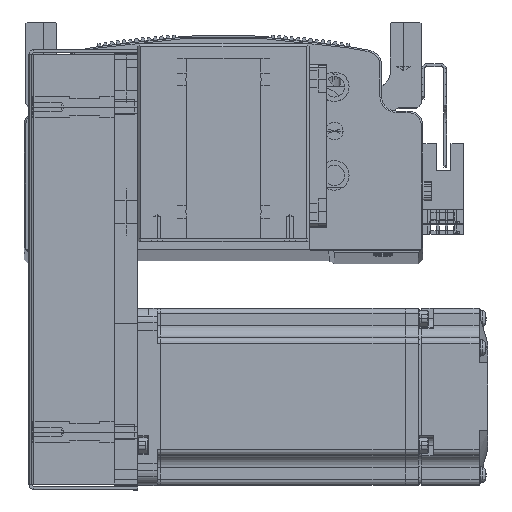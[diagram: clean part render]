
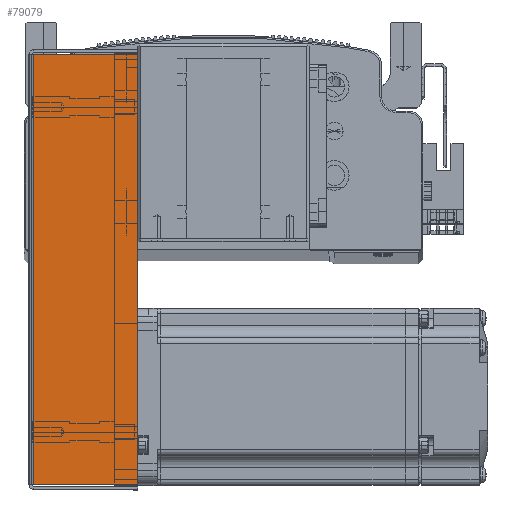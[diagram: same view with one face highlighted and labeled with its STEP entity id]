
A CAD part, top view. The second image highlights one B-rep face of the part: STEP entity #79079.
In plain terms, the highlighted planar face has unit normal (0, 0, 1) as drawn and (0, 0, -1) by its records, which use the part's own axes.
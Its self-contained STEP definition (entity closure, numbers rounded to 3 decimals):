
#15759 = PLANE ( 'NONE',  #30074 ) ;
#15783 = DIRECTION ( 'NONE',  ( 0., 0., 1. ) ) ;
#15842 = DIRECTION ( 'NONE',  ( 0., -1., 0. ) ) ;
#15847 = CARTESIAN_POINT ( 'NONE',  ( 0., 0., -34.5 ) ) ;
#30074 = AXIS2_PLACEMENT_3D ( 'NONE', #15847, #15783, #15842 ) ;
#30798 = EDGE_CURVE ( 'NONE', #32833, #33021, #53072, .T. ) ;
#30831 = EDGE_CURVE ( 'NONE', #32903, #33092, #53157, .T. ) ;
#30856 = EDGE_CURVE ( 'NONE', #33092, #33021, #53205, .T. ) ;
#30871 = EDGE_CURVE ( 'NONE', #32903, #32833, #53195, .T. ) ;
#32833 = VERTEX_POINT ( 'NONE', #40944 ) ;
#32903 = VERTEX_POINT ( 'NONE', #40968 ) ;
#33021 = VERTEX_POINT ( 'NONE', #41045 ) ;
#33092 = VERTEX_POINT ( 'NONE', #41122 ) ;
#40944 = CARTESIAN_POINT ( 'NONE',  ( 72.793, 0.737, -34.5 ) ) ;
#40968 = CARTESIAN_POINT ( 'NONE',  ( -72.793, 0.737, -34.5 ) ) ;
#41045 = CARTESIAN_POINT ( 'NONE',  ( 72.793, 36., -34.5 ) ) ;
#41122 = CARTESIAN_POINT ( 'NONE',  ( -72.793, 36., -34.5 ) ) ;
#49523 = FACE_OUTER_BOUND ( 'NONE', #60086, .T. ) ;
#53061 = VECTOR ( 'NONE', #86333, 1000. ) ;
#53072 = LINE ( 'NONE', #86344, #53061 ) ;
#53112 = VECTOR ( 'NONE', #86431, 1000. ) ;
#53157 = LINE ( 'NONE', #86417, #53112 ) ;
#53195 = LINE ( 'NONE', #86526, #53196 ) ;
#53196 = VECTOR ( 'NONE', #86527, 1000. ) ;
#53205 = LINE ( 'NONE', #86460, #53222 ) ;
#53222 = VECTOR ( 'NONE', #86540, 1000. ) ;
#54066 = ORIENTED_EDGE ( 'NONE', *, *, #30856, .T. ) ;
#54070 = ORIENTED_EDGE ( 'NONE', *, *, #30831, .T. ) ;
#60086 = EDGE_LOOP ( 'NONE', ( #72092, #54070, #54066, #72163 ) ) ;
#72092 = ORIENTED_EDGE ( 'NONE', *, *, #30871, .F. ) ;
#72163 = ORIENTED_EDGE ( 'NONE', *, *, #30798, .F. ) ;
#79079 = ADVANCED_FACE ( 'NONE', ( #49523 ), #15759, .F. ) ;
#86333 = DIRECTION ( 'NONE',  ( 0., 1., 0. ) ) ;
#86344 = CARTESIAN_POINT ( 'NONE',  ( 72.793, 0., -34.5 ) ) ;
#86417 = CARTESIAN_POINT ( 'NONE',  ( -72.793, 0., -34.5 ) ) ;
#86431 = DIRECTION ( 'NONE',  ( 0., 1., 0. ) ) ;
#86460 = CARTESIAN_POINT ( 'NONE',  ( 0., 36., -34.5 ) ) ;
#86526 = CARTESIAN_POINT ( 'NONE',  ( 74.5, 0.737, -34.5 ) ) ;
#86527 = DIRECTION ( 'NONE',  ( 1., 0., 0. ) ) ;
#86540 = DIRECTION ( 'NONE',  ( 1., 0., 0. ) ) ;
